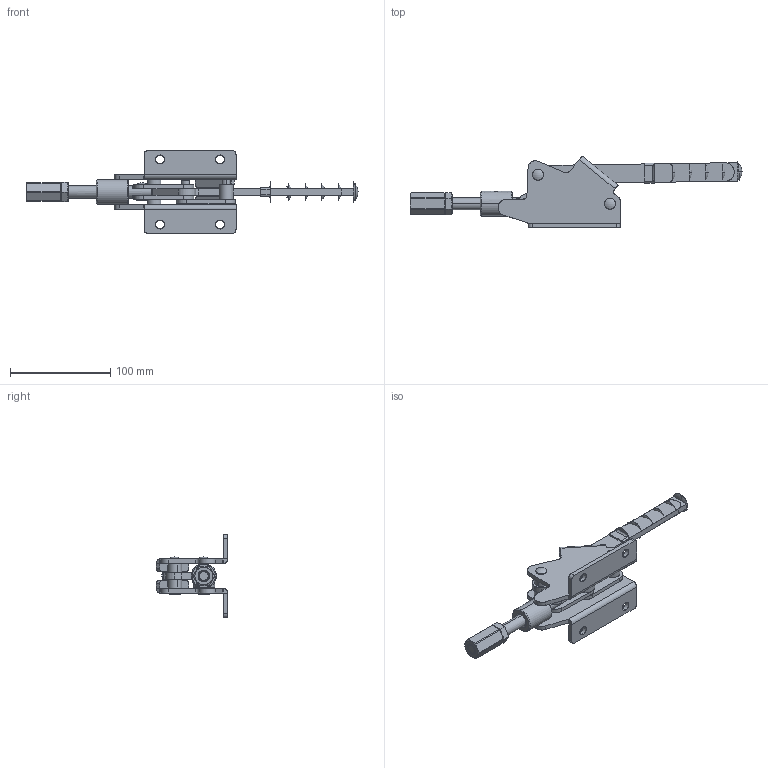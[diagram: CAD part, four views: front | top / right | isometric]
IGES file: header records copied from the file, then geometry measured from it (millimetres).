
Start section: SolidWorks IGES file using analytic representation for surfaces
Global section: file name: \\BARTOP_SV6\share\SOLIDWORKS\工具事業部\坂入用\Toggle clamp\ISK-51B中0\ISK-51B中0.IGS; native system: SolidWorks 2015; preprocessor: SolidWorks 2015; author: SOLID02; date: 150807.132419; units: millimetre
Bounding box: 331.99 x 71.55 x 83 mm (x, y, z)
Surface area: 87389.4 mm2 (no closed solid volume)
Topology: 0 solids, 0 shells, 345 faces, 5248 edges, 5247 vertices
Faces by surface type: revolution 218, bspline 127
